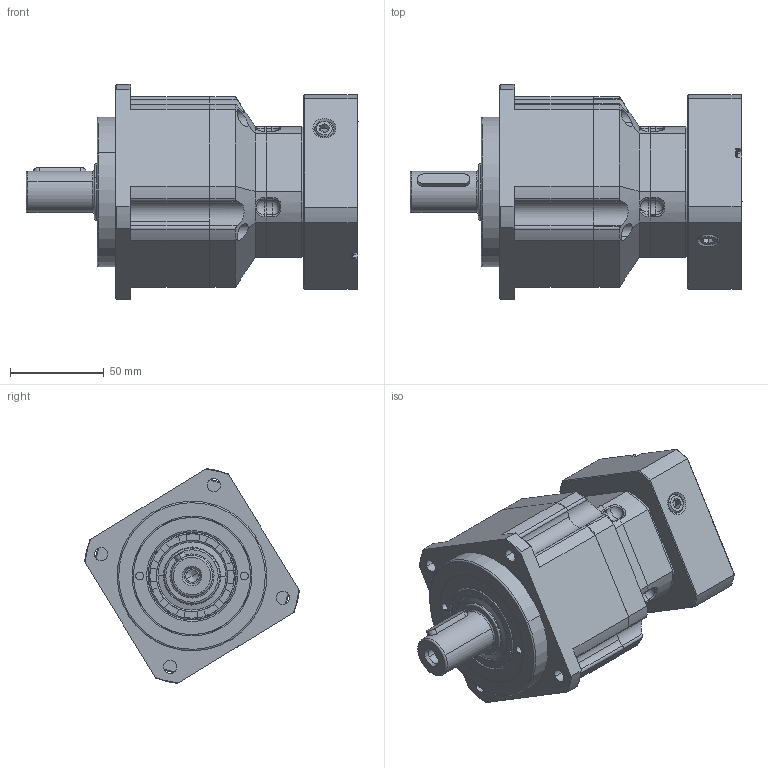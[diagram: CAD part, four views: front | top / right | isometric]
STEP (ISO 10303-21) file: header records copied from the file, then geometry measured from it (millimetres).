
FILE_DESCRIPTION (( 'STEP AP214' ), '1' );
FILE_NAME ('PAB090-L2-S2-P2 19-70-90-M6.STEP', '2021-04-25T08:15:33', ( 'User' ), ( 'china' ), 'SwSTEP 2.0', 'SolidWorks 2016', '' );
FILE_SCHEMA (( 'AUTOMOTIVE_DESIGN' ));
Length unit declared in the file: millimetre
Products named in the file (14): 一级内齿圈壳体PAB060D-Z108; hex socket set screws with cone point gb_GB_FASTENER_SCREWS_HSCP M10X10-N_4; hexagon socket head cap screws gb_GB_FASTENER_SCREWS_HSHCS M4X16-N_1; 坶踡遠23-43.5-12(1)_2; 输入太阳齿轮060M1-19_2; 12-输入法兰PAB0060M1-70X30XM5-200525; 5-输入端壳体PAB0060M1; 蚐猾30476_2; A倰す瑩 6-28_9; 怀堤俴陎殤PAB0090-5D_2; 输出内齿圈壳PAB0090D-Z108_2; 隅弇覃淕杶PAB090D_2; PAB090-L2-S2-P2 19-70-90-M6; hexagon socket head cap screws gb(GB_FASTENER_SCREWS_HSHCS M5X16-N)
Assembly tree (21 placements, depth 2):
  PAB090-L2-S2-P2 19-70-90-M6
    隅弇覃淕杶PAB090D_2
    输出内齿圈壳PAB0090D-Z108_2
    怀堤俴陎殤PAB0090-5D_2
    A倰す瑩 6-28_9
    蚐猾30476_2
    5-输入端壳体PAB0060M1
    12-输入法兰PAB0060M1-70X30XM5-200525
    输入太阳齿轮060M1-19_2
    坶踡遠23-43.5-12(1)_2
    hexagon socket head cap screws gb_GB_FASTENER_SCREWS_HSHCS M4X16-N_1  x6
    hex socket set screws with cone point gb_GB_FASTENER_SCREWS_HSCP M10X10-N_4
    一级内齿圈壳体PAB060D-Z108
    hexagon socket head cap screws gb(GB_FASTENER_SCREWS_HSHCS M5X16-N)  x4
Bounding box: 177.5 x 114.97 x 114.97 mm (x, y, z)
Volume: 736256.2 mm3; surface area: 140035.1 mm2
Topology: 22 solids, 22 shells, 1141 faces, 2781 edges, 1696 vertices
Faces by surface type: plane 377, cylinder 362, cone 213, torus 140, bspline 44, sphere 5
Entity records: 49569 total; most frequent: CARTESIAN_POINT 16307, DIRECTION 4915, ORIENTED_EDGE 4550, EDGE_CURVE 2275, AXIS2_PLACEMENT_3D 2016, VERTEX_POINT 1428, CIRCLE 1089, EDGE_LOOP 1047
